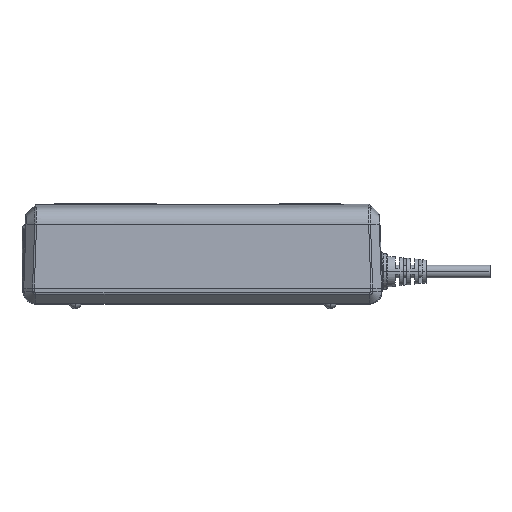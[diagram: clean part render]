
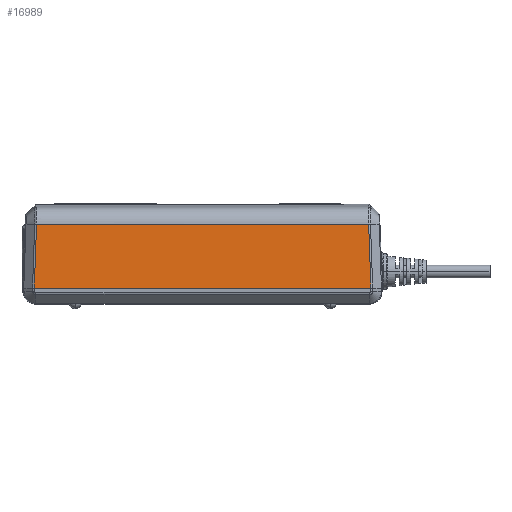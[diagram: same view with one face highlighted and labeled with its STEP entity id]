
A CAD part, top view. The second image highlights one B-rep face of the part: STEP entity #16989.
In plain terms, the highlighted planar face has unit normal (0, 0.035, 0.999).
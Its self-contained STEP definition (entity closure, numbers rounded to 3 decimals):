
#998 = EDGE_CURVE ( 'NONE', #8024, #9353, #14334, .T. ) ;
#1202 = CARTESIAN_POINT ( 'NONE',  ( -57.807, -11.8, 40.223 ) ) ;
#1841 = DIRECTION ( 'NONE',  ( 1., 0., 0. ) ) ;
#1919 = DIRECTION ( 'NONE',  ( -0.035, -0.999, 0.035 ) ) ;
#4853 = DIRECTION ( 'NONE',  ( 0., -0.999, 0.035 ) ) ;
#6422 = CARTESIAN_POINT ( 'NONE',  ( -61.141, 13.088, 39.354 ) ) ;
#7161 = LINE ( 'NONE', #22833, #16129 ) ;
#8024 = VERTEX_POINT ( 'NONE', #24753 ) ;
#8363 = VERTEX_POINT ( 'NONE', #1202 ) ;
#8988 = CARTESIAN_POINT ( 'NONE',  ( 72.933, 13.087, 39.354 ) ) ;
#9353 = VERTEX_POINT ( 'NONE', #8988 ) ;
#9588 = VECTOR ( 'NONE', #21732, 1000. ) ;
#10846 = FACE_OUTER_BOUND ( 'NONE', #14164, .T. ) ;
#13158 = VECTOR ( 'NONE', #1919, 1000. ) ;
#13462 = LINE ( 'NONE', #6422, #9588 ) ;
#13750 = LINE ( 'NONE', #23075, #13158 ) ;
#13965 = CARTESIAN_POINT ( 'NONE',  ( 72.692, 20.009, 39.113 ) ) ;
#14164 = EDGE_LOOP ( 'NONE', ( #17325, #24850, #22387, #21714 ) ) ;
#14334 = LINE ( 'NONE', #13965, #23436 ) ;
#15462 = VERTEX_POINT ( 'NONE', #19622 ) ;
#15818 = DIRECTION ( 'NONE',  ( -0.035, 0.999, -0.035 ) ) ;
#16129 = VECTOR ( 'NONE', #1841, 1000. ) ;
#16989 = ADVANCED_FACE ( 'NONE', ( #10846 ), #17847, .T. ) ;
#17325 = ORIENTED_EDGE ( 'NONE', *, *, #24876, .T. ) ;
#17847 = PLANE ( 'NONE',  #21335 ) ;
#19622 = CARTESIAN_POINT ( 'NONE',  ( -56.938, 13.087, 39.354 ) ) ;
#19797 = CARTESIAN_POINT ( 'NONE',  ( 68., -11.8, 40.223 ) ) ;
#20397 = DIRECTION ( 'NONE',  ( 0., 0.035, 0.999 ) ) ;
#21335 = AXIS2_PLACEMENT_3D ( 'NONE', #19797, #20397, #4853 ) ;
#21714 = ORIENTED_EDGE ( 'NONE', *, *, #24883, .T. ) ;
#21732 = DIRECTION ( 'NONE',  ( -1., 0., 0. ) ) ;
#22387 = ORIENTED_EDGE ( 'NONE', *, *, #24548, .T. ) ;
#22833 = CARTESIAN_POINT ( 'NONE',  ( 68., -11.8, 40.223 ) ) ;
#23075 = CARTESIAN_POINT ( 'NONE',  ( -56.938, 13.073, 39.355 ) ) ;
#23436 = VECTOR ( 'NONE', #15818, 1000. ) ;
#24548 = EDGE_CURVE ( 'NONE', #9353, #15462, #13462, .T. ) ;
#24753 = CARTESIAN_POINT ( 'NONE',  ( 73.802, -11.8, 40.223 ) ) ;
#24850 = ORIENTED_EDGE ( 'NONE', *, *, #998, .T. ) ;
#24876 = EDGE_CURVE ( 'NONE', #8363, #8024, #7161, .T. ) ;
#24883 = EDGE_CURVE ( 'NONE', #15462, #8363, #13750, .T. ) ;
